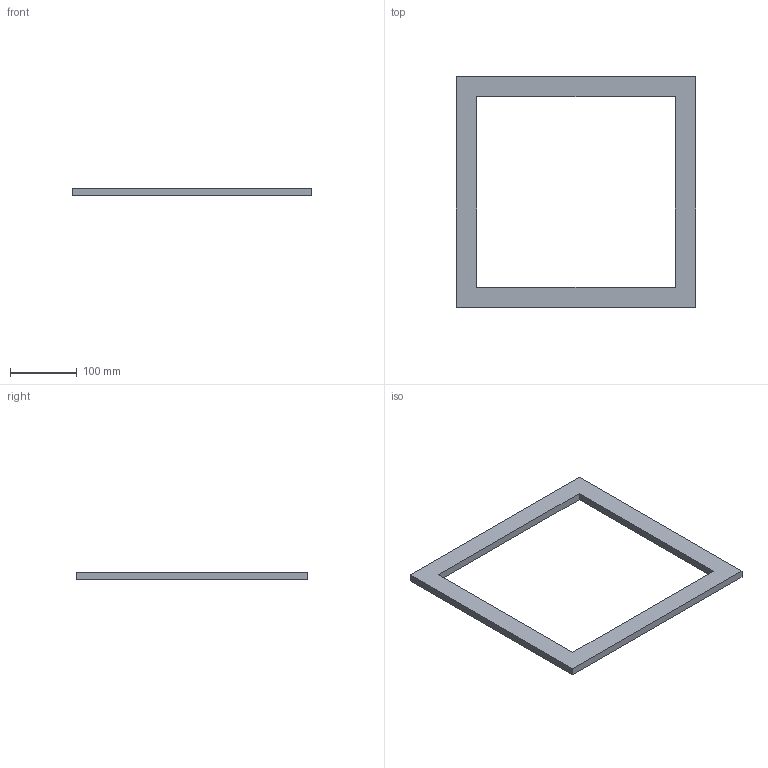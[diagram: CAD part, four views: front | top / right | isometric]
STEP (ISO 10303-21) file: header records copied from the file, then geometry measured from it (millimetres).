
FILE_DESCRIPTION(('CAx-IF Rec.Pracs.---Model Styling and Organization---1.2---2011-12-15','CAx-IF Rec.Pracs.---Geometric and Assembly Validation Properties---4.1---2014-06-16','CAx-IF Rec.Pracs.---PMI Polyline Presentation---2.0---2013-05-24'),'2;1');
FILE_NAME('Рамка двери YON.stp','2021-07-13T11:41:53+03:00',(''),(''),'STEP Interface 4.4 by CT CoreTechnologie','3D_Evolution4.4 by CT CoreTechnologie','');
FILE_SCHEMA(('AUTOMOTIVE_DESIGN { 1 0 10303 214 1 1 1 1 }'));
Length unit declared in the file: millimetre
Products named in the file (1): Рамка двери YON
Bounding box: 359 x 345 x 11.2 mm (x, y, z)
Surface area: 106678.8 mm2 (no closed solid volume)
Topology: 0 solids, 1 shells, 10 faces, 24 edges, 16 vertices
Faces by surface type: plane 10
Entity records: 590 total; most frequent: CARTESIAN_POINT 51, ORIENTED_EDGE 48, DIRECTION 46, PROPERTY_DEFINITION 35, REPRESENTATION 25, GENERAL_PROPERTY 25, PROPERTY_DEFINITION_REPRESENTATION 25, GENERAL_PROPERTY_ASSOCIATION 25
